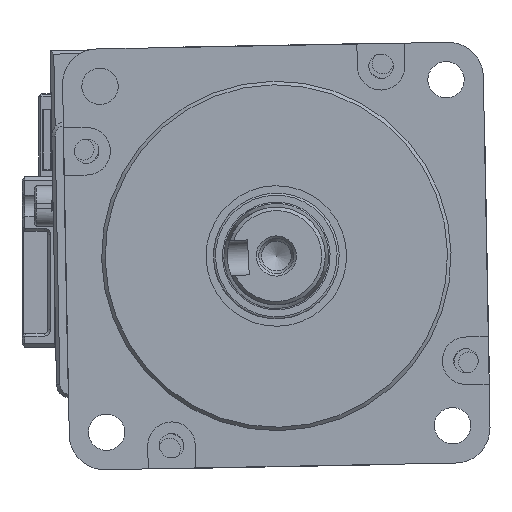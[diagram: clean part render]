
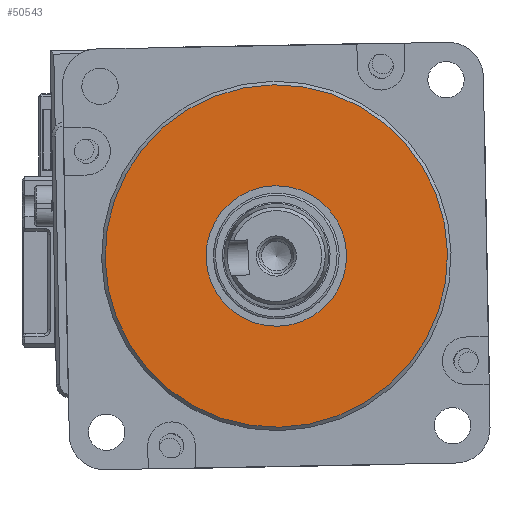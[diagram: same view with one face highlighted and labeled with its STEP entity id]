
A CAD part, left-side view. The second image highlights one B-rep face of the part: STEP entity #50543.
In plain terms, the highlighted planar face has unit normal (-1, 0, 0) as drawn and (0, 0, -1) by its records, which use the part's own axes.
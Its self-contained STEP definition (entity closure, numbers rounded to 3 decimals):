
#38 = EDGE_LOOP ( 'NONE', ( #22078 ) ) ;
#392 = EDGE_CURVE ( 'NONE', #62283, #62283, #19542, .T. ) ;
#731 = CARTESIAN_POINT ( 'NONE',  ( 10.051, 0., 0. ) ) ;
#1593 = ORIENTED_EDGE ( 'NONE', *, *, #11600, .T. ) ;
#3686 = DIRECTION ( 'NONE',  ( 1., 0., 0. ) ) ;
#5590 = EDGE_LOOP ( 'NONE', ( #1593 ) ) ;
#6838 = CARTESIAN_POINT ( 'NONE',  ( 0., 0., 0. ) ) ;
#11600 = EDGE_CURVE ( 'NONE', #22254, #22254, #48345, .T. ) ;
#13083 = CARTESIAN_POINT ( 'NONE',  ( 0., 0., 0. ) ) ;
#15051 = DIRECTION ( 'NONE',  ( 0., 0., 1. ) ) ;
#17441 = CARTESIAN_POINT ( 'NONE',  ( 24.5, 0., 0. ) ) ;
#18573 = FACE_BOUND ( 'NONE', #38, .T. ) ;
#19542 = CIRCLE ( 'NONE', #27755, 10.051 ) ;
#22078 = ORIENTED_EDGE ( 'NONE', *, *, #392, .T. ) ;
#22254 = VERTEX_POINT ( 'NONE', #17441 ) ;
#27755 = AXIS2_PLACEMENT_3D ( 'NONE', #47885, #15051, #3686 ) ;
#29658 = DIRECTION ( 'NONE',  ( 1., 0., 0. ) ) ;
#35541 = DIRECTION ( 'NONE',  ( 0., 0., 1. ) ) ;
#41074 = PLANE ( 'NONE',  #68487 ) ;
#41456 = DIRECTION ( 'NONE',  ( 1., 0., 0. ) ) ;
#47885 = CARTESIAN_POINT ( 'NONE',  ( 0., 0., 0. ) ) ;
#48345 = CIRCLE ( 'NONE', #50656, 24.5 ) ;
#50543 = ADVANCED_FACE ( 'NONE', ( #63204, #18573 ), #41074, .F. ) ;
#50656 = AXIS2_PLACEMENT_3D ( 'NONE', #6838, #68003, #29658 ) ;
#62283 = VERTEX_POINT ( 'NONE', #731 ) ;
#63204 = FACE_OUTER_BOUND ( 'NONE', #5590, .T. ) ;
#68003 = DIRECTION ( 'NONE',  ( 0., 0., -1. ) ) ;
#68487 = AXIS2_PLACEMENT_3D ( 'NONE', #13083, #35541, #41456 ) ;
